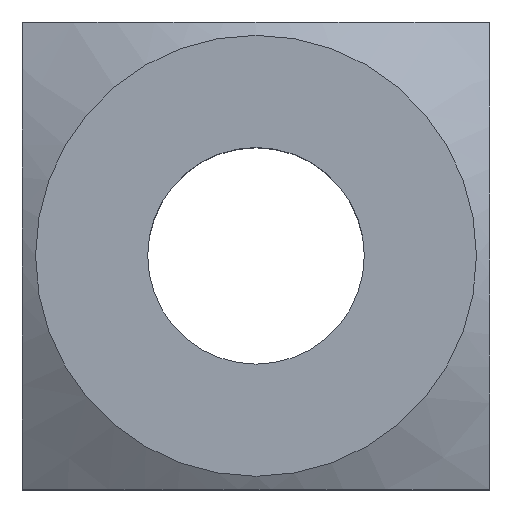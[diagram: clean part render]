
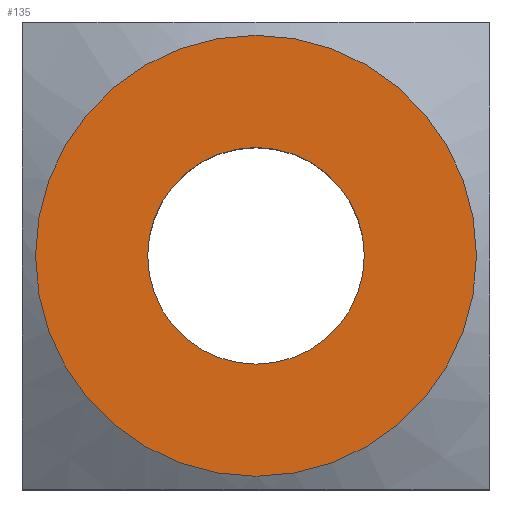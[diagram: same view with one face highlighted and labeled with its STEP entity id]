
A CAD part, top view. The second image highlights one B-rep face of the part: STEP entity #135.
In plain terms, the highlighted planar face has unit normal (0, 0, 1).
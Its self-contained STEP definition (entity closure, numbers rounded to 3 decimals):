
#39=PLANE('',#154);
#43=FACE_BOUND('',#66,.T.);
#44=CIRCLE('',#145,3.3);
#46=CIRCLE('',#150,1.621);
#54=FACE_OUTER_BOUND('',#65,.T.);
#65=EDGE_LOOP('',(#125));
#66=EDGE_LOOP('',(#126));
#75=VERTEX_POINT('',#205);
#80=VERTEX_POINT('',#220);
#86=EDGE_CURVE('',#75,#75,#44,.T.);
#93=EDGE_CURVE('',#80,#80,#46,.T.);
#125=ORIENTED_EDGE('',*,*,#86,.T.);
#126=ORIENTED_EDGE('',*,*,#93,.T.);
#135=ADVANCED_FACE('',(#54,#43),#39,.T.);
#145=AXIS2_PLACEMENT_3D('',#206,#159,#160);
#150=AXIS2_PLACEMENT_3D('',#221,#174,#175);
#154=AXIS2_PLACEMENT_3D('',#229,#185,#186);
#159=DIRECTION('center_axis',(0.,0.,1.));
#160=DIRECTION('ref_axis',(0.,1.,0.));
#174=DIRECTION('center_axis',(0.,0.,-1.));
#175=DIRECTION('ref_axis',(1.,0.,0.));
#185=DIRECTION('center_axis',(0.,0.,1.));
#186=DIRECTION('ref_axis',(1.,0.,0.));
#205=CARTESIAN_POINT('',(0.,3.3,3.1));
#206=CARTESIAN_POINT('Origin',(0.,0.,3.1));
#220=CARTESIAN_POINT('',(1.621,0.,3.1));
#221=CARTESIAN_POINT('Origin',(0.,0.,3.1));
#229=CARTESIAN_POINT('Origin',(0.,0.,
3.1));
